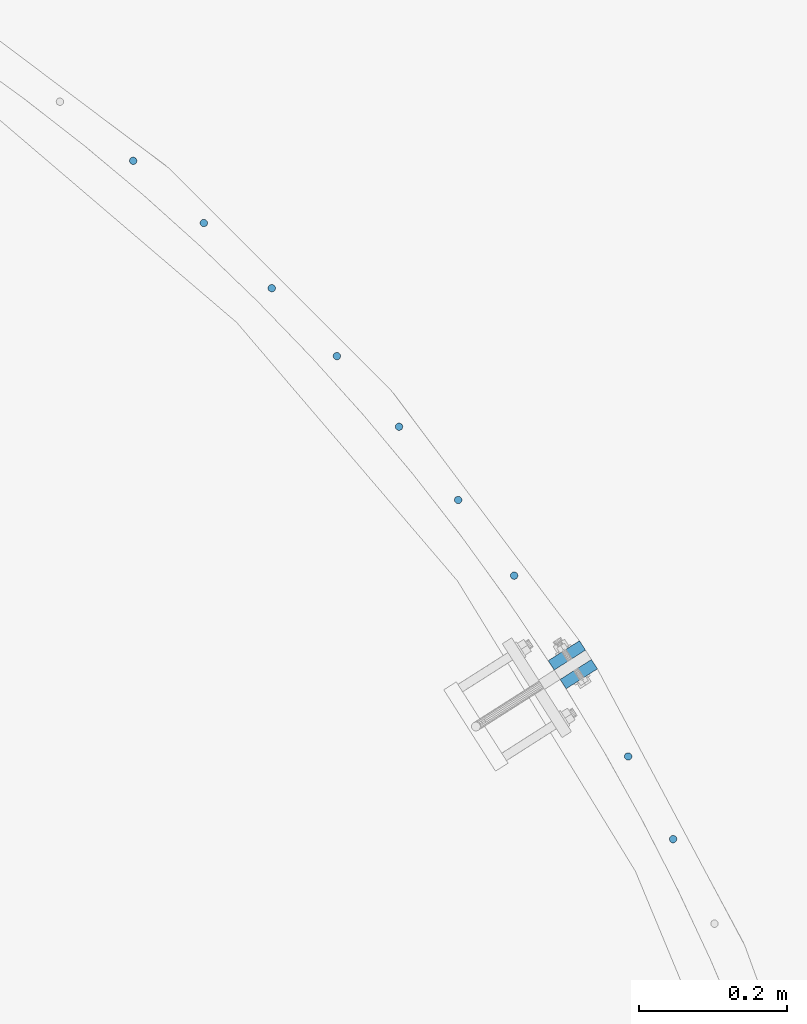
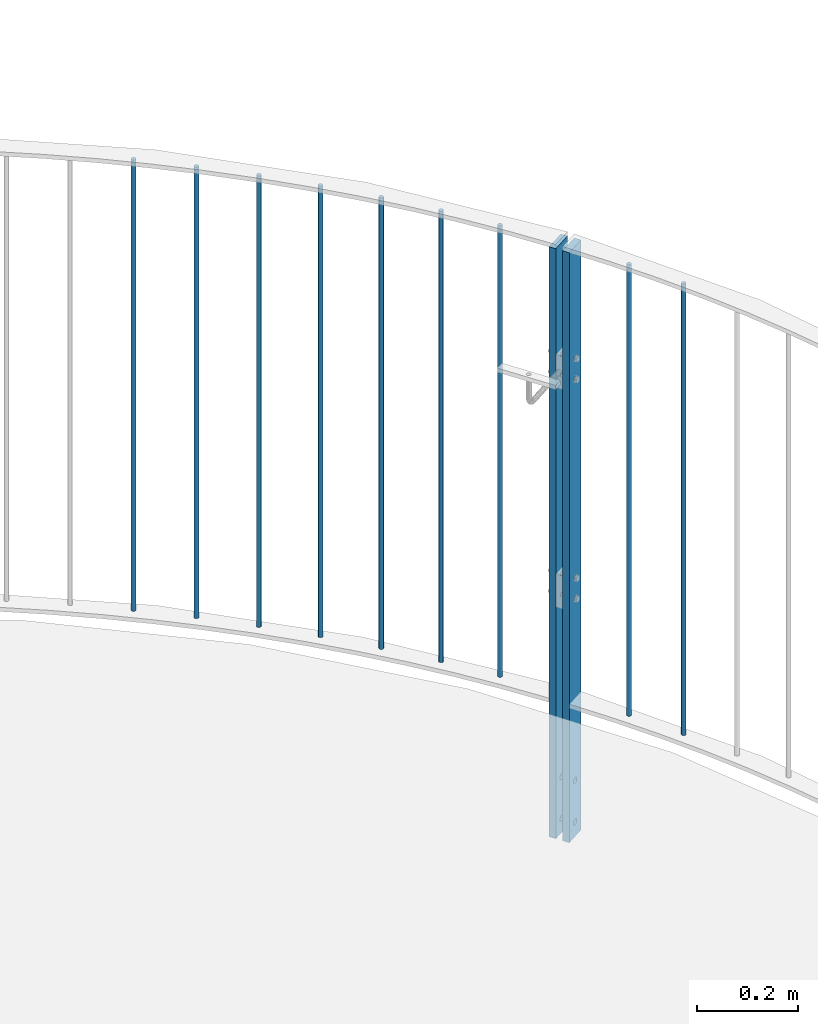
# One storey, part 93 of 296: 11 columns, 12 openings.
"""IFC2X3 building model written with IfcOpenShell, lengths in millimetres."""

from ifc_helpers import new_model, entity, si_unit, converted_unit, frame, frame_2d, origin, origin_with_axes, origin_2d, place, context, project, spatial, rectangle, circle, extrude, material, element, save


model = new_model("IFC2X3")

# Units and contexts
model_context = context("Model", 3, precision=1e-09, world=origin_with_axes())
ifc_project = project(units=[si_unit("LENGTHUNIT", "METRE", prefix="MILLI"), si_unit("AREAUNIT", "SQUARE_METRE"), si_unit("VOLUMEUNIT", "CUBIC_METRE"), converted_unit("PLANEANGLEUNIT", "DEGREE", entity("IfcPlaneAngleMeasure", 0.01745329), si_unit("PLANEANGLEUNIT", "RADIAN"), dimensions=[0, 0, 0, 0, 0, 0, 0])], contexts=[model_context])

# Site, building, storey
site_placement = place(None, origin_with_axes())
site = spatial("IfcSite", under=ifc_project, at=site_placement, Name="TZD-S?d | Treppenhausgel?nder", CompositionType="ELEMENT")
building_placement = place(site_placement, origin_with_axes())
building = spatial("IfcBuilding", under=site, at=building_placement, Name="Struktur 1", CompositionType="ELEMENT")
storey_placement = place(building_placement, origin_with_axes())
storey = spatial("IfcBuildingStorey", under=building, at=storey_placement, Name="Default Storey", CompositionType="ELEMENT", Elevation=0.0)

# Columns
ifc_material = material(Name="S235JR")
for number, where, z_axis, x_axis in (
    (1, (5581.990347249, 1271.305762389, 2450.0), (0.0, 0.0, -1.0), (0.0, 1.0, 0.0)),
    (2, (5521.381328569, 1382.861709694, 2450.0), (0.0, 0.0, -1.0), (0.0, 1.0, 0.0)),
    (3, (5367.595410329, 1626.727106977, 2450.0), (0.0, 0.0, -1.0), (-0.422618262, 0.906307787, 0.0)),
    (4, (5292.105864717, 1728.803113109, 2450.0), (0.0, 0.0, -1.0), (-0.422618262, 0.906307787, 0.0)),
    (5, (5212.351130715, 1827.582488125, 2450.0), (0.0, 0.0, -1.0), (-0.422618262, 0.906307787, 0.0)),
    (6, (5128.474998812, 1922.887141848, 2450.0), (0.0, 0.0, -1.0), (-0.422618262, 0.906307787, 0.0)),
    (7, (5040.628690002, 2014.545248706, 2450.0), (0.0, 0.0, -1.0), (-0.422618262, 0.906307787, 0.0)),
    (8, (4948.970583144, 2102.391557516, 2450.0), (0.0, 0.0, -1.0), (-0.422618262, 0.906307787, 0.0)),
    (9, (4853.66592942, 2186.267689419, 2450.0), (0.0, 0.0, -1.0), (-0.422618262, 0.906307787, 0.0)),
):
    element("IfcColumn", number, at=place(None, frame(where, z_axis=z_axis, x_axis=x_axis)), inside=storey, material=ifc_material, Name="-", ObjectType="-", context=model_context, shape_type="SweptSolid", body=[
        extrude(circle(Radius=5.0, at=origin_2d()), origin(), (0.0, 0.0, -1.0), 1090.0),
    ])

# Column, openings
column_1_placement = place(None, frame((5454.799917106, 1493.87495727, 2115.001), z_axis=(0.0, 0.0, -1.0), x_axis=(-0.537299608, 0.843391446, 0.0)))
column_1 = element("IfcColumn", 10, at=column_1_placement, inside=storey, material=ifc_material, Name="-", ObjectType="-", context=model_context, shape_type="SweptSolid", body=[
    extrude(rectangle(XDim=15.0, YDim=50.0, at=origin_2d()), origin(), (0.0, 0.0, -1.0), 1424.999),
])
opening_1_placement = place(column_1_placement, frame((8.0, 7.001, -135.0), z_axis=(1.0, 0.0, 0.0), x_axis=(0.0, 1.0, 0.0)))
element("IfcOpeningElement", 11, at=opening_1_placement, cuts=column_1, ObjectType="Opening", context=model_context, shape_type="SweptSolid", body=[
    extrude(circle(Radius=7.001, at=frame_2d((-7.001, 0.0), x_axis=(1.0, 0.0))), origin(), (0.0, 0.0, -1.0), 16.0),
])
opening_2_placement = place(column_1_placement, frame((8.0, 7.001, -35.0), z_axis=(1.0, 0.0, 0.0), x_axis=(0.0, 1.0, 0.0)))
element("IfcOpeningElement", 12, at=opening_2_placement, cuts=column_1, ObjectType="Opening", context=model_context, shape_type="SweptSolid", body=[
    extrude(circle(Radius=7.001, at=frame_2d((-7.001, 0.0), x_axis=(1.0, 0.0))), origin(), (0.0, 0.0, -1.0), 16.0),
])
opening_3_placement = place(column_1_placement, frame((8.0, 5.001, -624.999999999), z_axis=(1.0, 0.0, 0.0), x_axis=(0.0, 1.0, 0.0)))
element("IfcOpeningElement", 13, at=opening_3_placement, cuts=column_1, ObjectType="Opening", context=model_context, shape_type="SweptSolid", body=[
    extrude(circle(Radius=5.001, at=frame_2d((-5.001, 0.0), x_axis=(1.0, 0.0))), origin(), (0.0, 0.0, -1.0), 16.0),
])
opening_4_placement = place(column_1_placement, frame((8.0, 5.001, -574.999999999), z_axis=(1.0, 0.0, 0.0), x_axis=(0.0, 1.0, 0.0)))
element("IfcOpeningElement", 14, at=opening_4_placement, cuts=column_1, ObjectType="Opening", context=model_context, shape_type="SweptSolid", body=[
    extrude(circle(Radius=5.001, at=frame_2d((-5.001, 0.0), x_axis=(1.0, 0.0))), origin(), (0.0, 0.0, -1.0), 16.0),
])
opening_5_placement = place(column_1_placement, frame((8.0, 5.001, -1154.999999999), z_axis=(1.0, 0.0, 0.0), x_axis=(0.0, 1.0, 0.0)))
element("IfcOpeningElement", 15, at=opening_5_placement, cuts=column_1, ObjectType="Opening", context=model_context, shape_type="SweptSolid", body=[
    extrude(circle(Radius=5.001, at=frame_2d((-5.001, 0.0), x_axis=(1.0, 0.0))), origin(), (0.0, 0.0, -1.0), 16.0),
])
opening_6_placement = place(column_1_placement, frame((8.0, 5.001, -1104.999999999), z_axis=(1.0, 0.0, 0.0), x_axis=(0.0, 1.0, 0.0)))
element("IfcOpeningElement", 16, at=opening_6_placement, cuts=column_1, ObjectType="Opening", context=model_context, shape_type="SweptSolid", body=[
    extrude(circle(Radius=5.001, at=frame_2d((-5.001, 0.0), x_axis=(1.0, 0.0))), origin(), (0.0, 0.0, -1.0), 16.0),
])

column_2_placement = place(None, frame((5438.680928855, 1519.176700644, 2115.001), z_axis=(0.0, 0.0, 1.0), x_axis=(0.537299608, -0.843391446, 0.0)))
column_2 = element("IfcColumn", 17, at=column_2_placement, inside=storey, material=ifc_material, Name="-", ObjectType="-", context=model_context, shape_type="SweptSolid", body=[
    extrude(rectangle(XDim=15.0, YDim=50.0, at=origin_2d()), origin(), (0.0, 0.0, 1.0), 1424.999),
])
opening_7_placement = place(column_2_placement, frame((-8.0, 5.001, 1154.999999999), z_axis=(-1.0, 0.0, 0.0), x_axis=(0.0, -1.0, 0.0)))
element("IfcOpeningElement", 18, at=opening_7_placement, cuts=column_2, ObjectType="Opening", context=model_context, shape_type="SweptSolid", body=[
    extrude(circle(Radius=5.001, at=frame_2d((5.001, 0.0), x_axis=(1.0, 0.0))), origin(), (0.0, 0.0, -1.0), 16.0),
])
opening_8_placement = place(column_2_placement, frame((-8.0, 5.001, 1104.999999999), z_axis=(-1.0, 0.0, 0.0), x_axis=(0.0, -1.0, 0.0)))
element("IfcOpeningElement", 19, at=opening_8_placement, cuts=column_2, ObjectType="Opening", context=model_context, shape_type="SweptSolid", body=[
    extrude(circle(Radius=5.001, at=frame_2d((5.001, 0.0), x_axis=(1.0, 0.0))), origin(), (0.0, 0.0, -1.0), 16.0),
])
opening_9_placement = place(column_2_placement, frame((-8.0, 7.001, 135.0), z_axis=(-1.0, 0.0, 0.0), x_axis=(0.0, -1.0, 0.0)))
element("IfcOpeningElement", 20, at=opening_9_placement, cuts=column_2, ObjectType="Opening", context=model_context, shape_type="SweptSolid", body=[
    extrude(circle(Radius=7.001, at=frame_2d((7.001, 0.0), x_axis=(1.0, 0.0))), origin(), (0.0, 0.0, -1.0), 16.0),
])
opening_10_placement = place(column_2_placement, frame((-8.0, 7.001, 35.0), z_axis=(-1.0, 0.0, 0.0), x_axis=(0.0, -1.0, 0.0)))
element("IfcOpeningElement", 21, at=opening_10_placement, cuts=column_2, ObjectType="Opening", context=model_context, shape_type="SweptSolid", body=[
    extrude(circle(Radius=7.001, at=frame_2d((7.001, 0.0), x_axis=(1.0, 0.0))), origin(), (0.0, 0.0, -1.0), 16.0),
])
opening_11_placement = place(column_2_placement, frame((-8.0, 5.001, 624.999999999), z_axis=(-1.0, 0.0, 0.0), x_axis=(0.0, -1.0, 0.0)))
element("IfcOpeningElement", 22, at=opening_11_placement, cuts=column_2, ObjectType="Opening", context=model_context, shape_type="SweptSolid", body=[
    extrude(circle(Radius=5.001, at=frame_2d((5.001, 0.0), x_axis=(1.0, 0.0))), origin(), (0.0, 0.0, -1.0), 16.0),
])
opening_12_placement = place(column_2_placement, frame((-8.0, 5.001, 574.999999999), z_axis=(-1.0, 0.0, 0.0), x_axis=(0.0, -1.0, 0.0)))
element("IfcOpeningElement", 23, at=opening_12_placement, cuts=column_2, ObjectType="Opening", context=model_context, shape_type="SweptSolid", body=[
    extrude(circle(Radius=5.001, at=frame_2d((5.001, 0.0), x_axis=(1.0, 0.0))), origin(), (0.0, 0.0, -1.0), 16.0),
])

save(model, "model.ifc")
